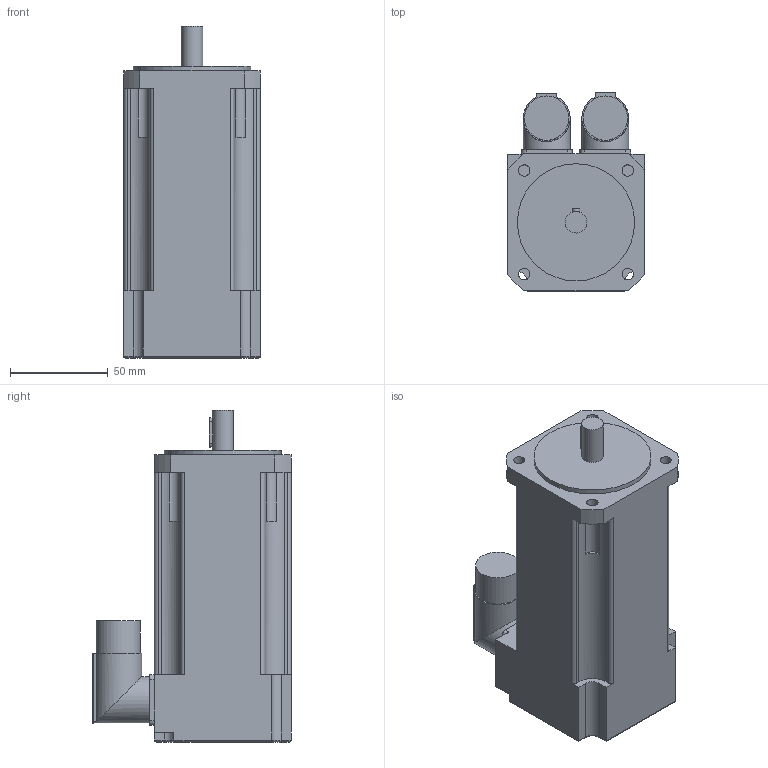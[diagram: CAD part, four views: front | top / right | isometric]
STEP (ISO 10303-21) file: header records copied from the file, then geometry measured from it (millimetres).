
FILE_DESCRIPTION(/* description */ (''),/* implementation_level */ '2;1');
FILE_NAME(/* name */ '\\Lafnas01\disegni\Archivi Lafert\3D\CAD 3D\MODELLI\Assiemi clienti\Serad\Modelli 3D Serad\B36Q\Resolver\Res With Brake\B36D6Qxx6B052033.ipt.stp',/* time_stamp */ '2015-09-07T10:49:28+02:00',/* author */ ('Pastrello Ylenia'),/* organization */ (''),/* preprocessor_version */ 'ST-DEVELOPER v15.6',/* originating_system */ 'Autodesk Inventor 2015',/* authorisation */ '');
FILE_SCHEMA (('AUTOMOTIVE_DESIGN { 1 0 10303 214 3 1 1 }'));
Length unit declared in the file: millimetre
Products named in the file (1): B36D6Qxx6B052033
Bounding box: 70 x 101.5 x 170 mm (x, y, z)
Volume: 705522.3 mm3; surface area: 59701.9 mm2
Topology: 1 solids, 1 shells, 121 faces, 322 edges, 210 vertices
Faces by surface type: plane 59, cylinder 58, torus 4
Full cylindrical faces by diameter (mm): 5.8 x4, 11 x1, 22.7 x2, 24 x2, 60 x1
Entity records: 3806 total; most frequent: CARTESIAN_POINT 678, DIRECTION 676, ORIENTED_EDGE 624, EDGE_CURVE 312, AXIS2_PLACEMENT_3D 244, VERTEX_POINT 210, LINE 188, VECTOR 188
